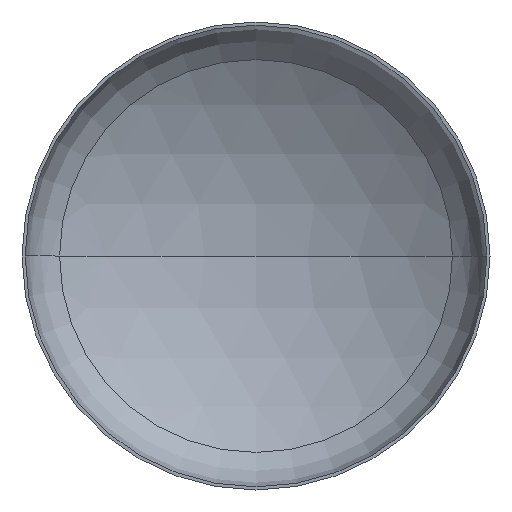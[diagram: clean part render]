
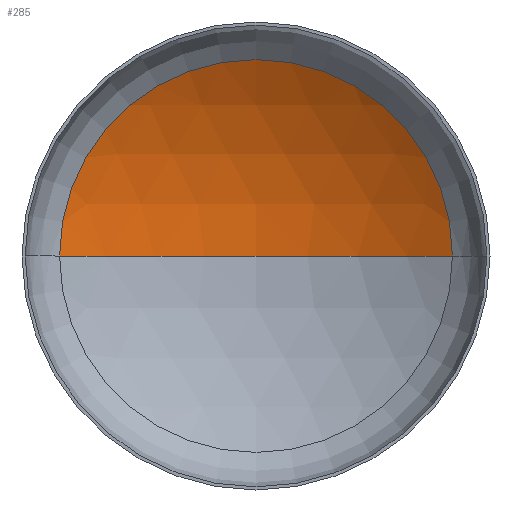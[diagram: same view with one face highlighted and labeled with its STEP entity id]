
A CAD part, front view. The second image highlights one B-rep face of the part: STEP entity #285.
In plain terms, the highlighted spherical face has radius 1760 mm.
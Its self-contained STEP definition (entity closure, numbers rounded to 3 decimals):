
#9 = EDGE_LOOP ( 'NONE', ( #12, #103, #86 ) ) ;
#12 = ORIENTED_EDGE ( 'NONE', *, *, #214, .F. ) ;
#20 = DIRECTION ( 'NONE',  ( 0., 0., -1. ) ) ;
#28 = VERTEX_POINT ( 'NONE', #359 ) ;
#29 = CARTESIAN_POINT ( 'NONE',  ( 0., -1163.873, 0. ) ) ;
#39 = VERTEX_POINT ( 'NONE', #240 ) ;
#66 = AXIS2_PLACEMENT_3D ( 'NONE', #29, #20, #189 ) ;
#78 = VERTEX_POINT ( 'NONE', #244 ) ;
#86 = ORIENTED_EDGE ( 'NONE', *, *, #197, .T. ) ;
#96 = AXIS2_PLACEMENT_3D ( 'NONE', #249, #248, #187 ) ;
#98 = AXIS2_PLACEMENT_3D ( 'NONE', #221, #223, #268 ) ;
#103 = ORIENTED_EDGE ( 'NONE', *, *, #207, .T. ) ;
#104 = AXIS2_PLACEMENT_3D ( 'NONE', #398, #193, #211 ) ;
#154 = CIRCLE ( 'NONE', #98, 1760. ) ;
#187 = DIRECTION ( 'NONE',  ( 1., 0., 0. ) ) ;
#189 = DIRECTION ( 'NONE',  ( -1., 0., 0. ) ) ;
#193 = DIRECTION ( 'NONE',  ( 0., -1., 0. ) ) ;
#197 = EDGE_CURVE ( 'NONE', #39, #28, #351, .T. ) ;
#207 = EDGE_CURVE ( 'NONE', #78, #39, #154, .T. ) ;
#211 = DIRECTION ( 'NONE',  ( 1., 0., 0. ) ) ;
#214 = EDGE_CURVE ( 'NONE', #78, #28, #216, .T. ) ;
#216 = CIRCLE ( 'NONE', #96, 1760. ) ;
#221 = CARTESIAN_POINT ( 'NONE',  ( 0., -1163.873, 0. ) ) ;
#223 = DIRECTION ( 'NONE',  ( 0., 0., -1. ) ) ;
#240 = CARTESIAN_POINT ( 'NONE',  ( 923.38, 334.449, 0. ) ) ;
#244 = CARTESIAN_POINT ( 'NONE',  ( 0., 596.127, 0. ) ) ;
#248 = DIRECTION ( 'NONE',  ( 0., 0., 1. ) ) ;
#249 = CARTESIAN_POINT ( 'NONE',  ( 0., -1163.873, 0. ) ) ;
#268 = DIRECTION ( 'NONE',  ( -1., 0., 0. ) ) ;
#281 = FACE_OUTER_BOUND ( 'NONE', #9, .T. ) ;
#285 = ADVANCED_FACE ( 'NONE', ( #281 ), #339, .F. ) ;
#339 = SPHERICAL_SURFACE ( 'NONE', #66, 1760. ) ;
#351 = CIRCLE ( 'NONE', #104, 923.38 ) ;
#359 = CARTESIAN_POINT ( 'NONE',  ( -923.38, 334.449, 0. ) ) ;
#398 = CARTESIAN_POINT ( 'NONE',  ( 0., 334.449, 0. ) ) ;
